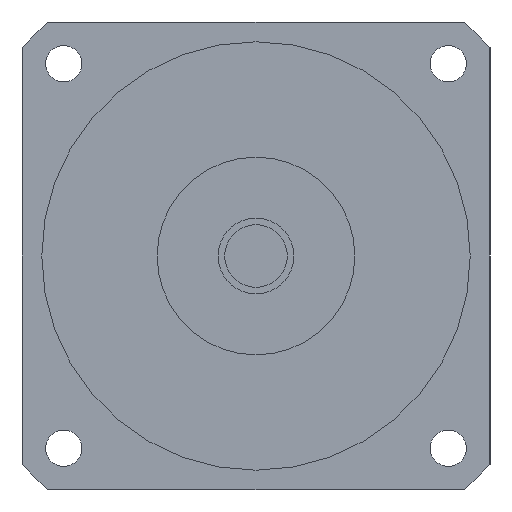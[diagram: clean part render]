
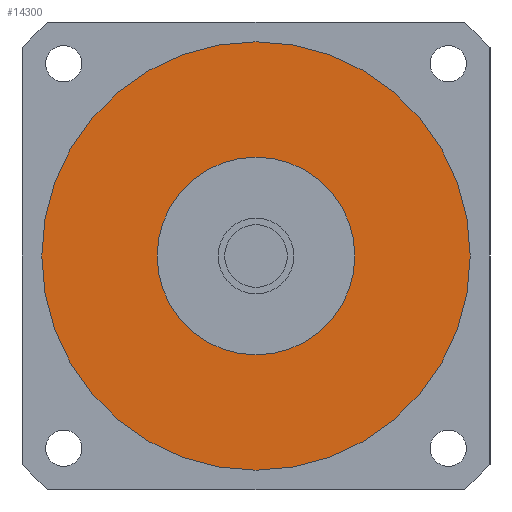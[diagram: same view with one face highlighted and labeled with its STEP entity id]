
A CAD part, left-side view. The second image highlights one B-rep face of the part: STEP entity #14300.
In plain terms, the highlighted planar face has unit normal (-1, 0, 0) as drawn and (0, 0, -1) by its records, which use the part's own axes.
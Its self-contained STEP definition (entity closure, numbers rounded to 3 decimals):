
#13720=CARTESIAN_POINT('',(65.,0.,-42.5));
#13730=VERTEX_POINT('',#13720);
#13820=CARTESIAN_POINT('',(-65.,0.,-42.5));
#13830=VERTEX_POINT('',#13820);
#13860=CARTESIAN_POINT('',(0.,0.,
-42.5));
#13870=DIRECTION('',(0.,0.,1.));
#13880=DIRECTION('',(0.,1.,0.));
#13890=AXIS2_PLACEMENT_3D('',#13860,#13870,#13880);
#13900=CIRCLE('',#13890,65.);
#13910=CARTESIAN_POINT('',(0.,65.,-42.5));
#13920=VERTEX_POINT('',#13910);
#13930=EDGE_CURVE('',#13920,#13830,#13900,.T.);
#13950=EDGE_CURVE('',#13730,#13920,#13900,.T.);
#14000=CARTESIAN_POINT('',(0.,0.,
-42.5));
#14010=DIRECTION('',(0.,0.,1.));
#14020=DIRECTION('',(-1.,0.,0.));
#14030=AXIS2_PLACEMENT_3D('',#14000,#14010,#14020);
#14040=PLANE('',#14030);
#14050=ORIENTED_EDGE('',*,*,#13930,.F.);
#14060=EDGE_CURVE('',#13830,#13730,#13900,.T.);
#14070=ORIENTED_EDGE('',*,*,#14060,.F.);
#14080=ORIENTED_EDGE('',*,*,#13950,.F.);
#14090=EDGE_LOOP('',(#14080,#14070,#14050));
#14100=FACE_OUTER_BOUND('',#14090,.T.);
#14110=CARTESIAN_POINT('',(0.,0.,
-42.5));
#14120=DIRECTION('',(0.,0.,1.));
#14130=DIRECTION('',(0.,1.,0.));
#14140=AXIS2_PLACEMENT_3D('',#14110,#14120,#14130);
#14150=CIRCLE('',#14140,30.);
#14160=CARTESIAN_POINT('',(-30.,0.,-42.5));
#14170=VERTEX_POINT('',#14160);
#14180=CARTESIAN_POINT('',(30.,0.,-42.5));
#14190=VERTEX_POINT('',#14180);
#14200=EDGE_CURVE('',#14170,#14190,#14150,.T.);
#14210=ORIENTED_EDGE('',*,*,#14200,.T.);
#14220=CARTESIAN_POINT('',(0.,30.,-42.5));
#14230=VERTEX_POINT('',#14220);
#14240=EDGE_CURVE('',#14230,#14170,#14150,.T.);
#14250=ORIENTED_EDGE('',*,*,#14240,.T.);
#14260=EDGE_CURVE('',#14190,#14230,#14150,.T.);
#14270=ORIENTED_EDGE('',*,*,#14260,.T.);
#14280=EDGE_LOOP('',(#14270,#14250,#14210));
#14290=FACE_BOUND('',#14280,.T.);
#14300=ADVANCED_FACE('',(#14100,#14290),#14040,.F.);
